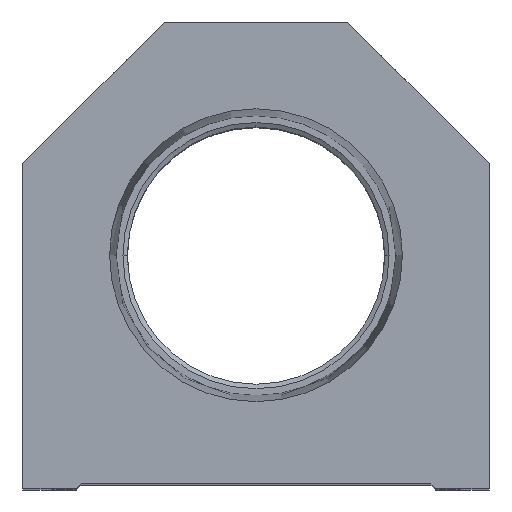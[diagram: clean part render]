
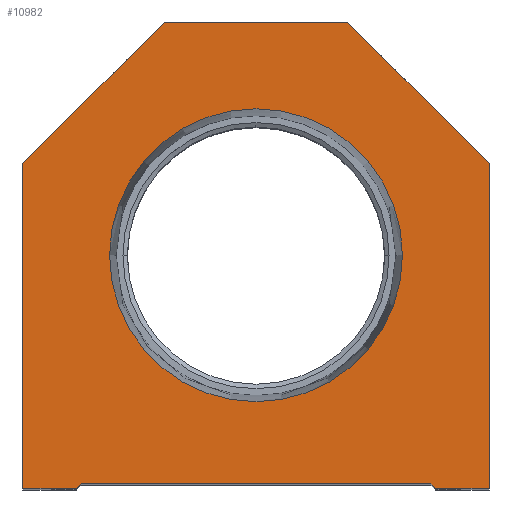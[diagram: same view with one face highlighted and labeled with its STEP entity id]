
A CAD part, top view. The second image highlights one B-rep face of the part: STEP entity #10982.
In plain terms, the highlighted planar face has unit normal (0, 0, 1).
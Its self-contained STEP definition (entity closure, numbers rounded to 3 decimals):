
#150 = CARTESIAN_POINT ( 'NONE',  ( 10., 50.8, 0. ) ) ;
#306 = ORIENTED_EDGE ( 'NONE', *, *, #5388, .T. ) ;
#491 = FACE_OUTER_BOUND ( 'NONE', #12122, .T. ) ;
#863 = EDGE_CURVE ( 'NONE', #15999, #13989, #4480, .T. ) ;
#1043 = ORIENTED_EDGE ( 'NONE', *, *, #13807, .T. ) ;
#1065 = EDGE_CURVE ( 'NONE', #4474, #13667, #1699, .T. ) ;
#1090 = ORIENTED_EDGE ( 'NONE', *, *, #13294, .F. ) ;
#1550 = LINE ( 'NONE', #5254, #8400 ) ;
#1660 = VERTEX_POINT ( 'NONE', #13627 ) ;
#1670 = AXIS2_PLACEMENT_3D ( 'NONE', #15817, #14728, #13236 ) ;
#1684 = LINE ( 'NONE', #7757, #13347 ) ;
#1699 = LINE ( 'NONE', #8202, #5409 ) ;
#2036 = VECTOR ( 'NONE', #13817, 1000. ) ;
#2078 = EDGE_CURVE ( 'NONE', #9143, #9893, #6070, .T. ) ;
#2147 = EDGE_CURVE ( 'NONE', #2598, #2296, #10248, .T. ) ;
#2296 = VERTEX_POINT ( 'NONE', #8568 ) ;
#2369 = ORIENTED_EDGE ( 'NONE', *, *, #2965, .T. ) ;
#2480 = ORIENTED_EDGE ( 'NONE', *, *, #8886, .T. ) ;
#2598 = VERTEX_POINT ( 'NONE', #8726 ) ;
#2639 = ORIENTED_EDGE ( 'NONE', *, *, #2147, .T. ) ;
#2965 = EDGE_CURVE ( 'NONE', #10122, #12591, #9958, .T. ) ;
#3007 = FACE_BOUND ( 'NONE', #9052, .T. ) ;
#4260 = LINE ( 'NONE', #11697, #10611 ) ;
#4261 = PLANE ( 'NONE',  #1670 ) ;
#4474 = VERTEX_POINT ( 'NONE', #8248 ) ;
#4480 = CIRCLE ( 'NONE', #13911, 15.947 ) ;
#4826 = DIRECTION ( 'NONE',  ( 1., 0., 0. ) ) ;
#5119 = LINE ( 'NONE', #10349, #5197 ) ;
#5197 = VECTOR ( 'NONE', #10185, 1000. ) ;
#5254 = CARTESIAN_POINT ( 'NONE',  ( -19.05, 0., 0. ) ) ;
#5307 = ORIENTED_EDGE ( 'NONE', *, *, #2078, .T. ) ;
#5354 = CARTESIAN_POINT ( 'NONE',  ( -15.947, 25.4, 0. ) ) ;
#5388 = EDGE_CURVE ( 'NONE', #11043, #9143, #9402, .T. ) ;
#5409 = VECTOR ( 'NONE', #13599, 1000. ) ;
#5564 = DIRECTION ( 'NONE',  ( -1., 0., 0. ) ) ;
#5931 = VECTOR ( 'NONE', #12969, 1000. ) ;
#6070 = LINE ( 'NONE', #16329, #2036 ) ;
#6516 = VECTOR ( 'NONE', #12004, 1000. ) ;
#6942 = CARTESIAN_POINT ( 'NONE',  ( 0., 25.4, 0. ) ) ;
#7403 = CARTESIAN_POINT ( 'NONE',  ( 25.4, 35.4, 0. ) ) ;
#7757 = CARTESIAN_POINT ( 'NONE',  ( 19.05, 0., 0. ) ) ;
#8202 = CARTESIAN_POINT ( 'NONE',  ( 9.775, 9.775, 0. ) ) ;
#8248 = CARTESIAN_POINT ( 'NONE',  ( 19.05, 0.5, 0. ) ) ;
#8400 = VECTOR ( 'NONE', #10382, 1000. ) ;
#8406 = CARTESIAN_POINT ( 'NONE',  ( -10., 50.8, 0. ) ) ;
#8568 = CARTESIAN_POINT ( 'NONE',  ( -19.05, 0.5, 0. ) ) ;
#8608 = CARTESIAN_POINT ( 'NONE',  ( 19.55, 0., 0. ) ) ;
#8726 = CARTESIAN_POINT ( 'NONE',  ( -19.55, 0., 0. ) ) ;
#8799 = CARTESIAN_POINT ( 'NONE',  ( 0., 25.4, 0. ) ) ;
#8886 = EDGE_CURVE ( 'NONE', #2296, #4474, #10650, .T. ) ;
#8956 = CARTESIAN_POINT ( 'NONE',  ( -25.4, 35.4, 0. ) ) ;
#9052 = EDGE_LOOP ( 'NONE', ( #12879, #1090 ) ) ;
#9115 = DIRECTION ( 'NONE',  ( 1., 0., 0. ) ) ;
#9143 = VERTEX_POINT ( 'NONE', #7403 ) ;
#9402 = LINE ( 'NONE', #10579, #5931 ) ;
#9701 = ORIENTED_EDGE ( 'NONE', *, *, #16252, .T. ) ;
#9893 = VERTEX_POINT ( 'NONE', #150 ) ;
#9958 = LINE ( 'NONE', #8956, #12671 ) ;
#10122 = VERTEX_POINT ( 'NONE', #8406 ) ;
#10185 = DIRECTION ( 'NONE',  ( 0., -1., 0. ) ) ;
#10248 = LINE ( 'NONE', #12903, #16029 ) ;
#10349 = CARTESIAN_POINT ( 'NONE',  ( -25.4, 0., 0. ) ) ;
#10382 = DIRECTION ( 'NONE',  ( 1., 0., 0. ) ) ;
#10505 = DIRECTION ( 'NONE',  ( 0.707, 0.707, 0. ) ) ;
#10579 = CARTESIAN_POINT ( 'NONE',  ( 25.4, 0., 0. ) ) ;
#10611 = VECTOR ( 'NONE', #5564, 1000. ) ;
#10650 = LINE ( 'NONE', #14512, #6516 ) ;
#10785 = CARTESIAN_POINT ( 'NONE',  ( 15.947, 25.4, 0. ) ) ;
#10938 = CARTESIAN_POINT ( 'NONE',  ( -25.4, 35.4, 0. ) ) ;
#10982 = ADVANCED_FACE ( 'NONE', ( #3007, #491 ), #4261, .T. ) ;
#11043 = VERTEX_POINT ( 'NONE', #13150 ) ;
#11223 = EDGE_CURVE ( 'NONE', #1660, #2598, #1550, .T. ) ;
#11236 = DIRECTION ( 'NONE',  ( -0.707, -0.707, 0. ) ) ;
#11697 = CARTESIAN_POINT ( 'NONE',  ( 10., 50.8, 0. ) ) ;
#12004 = DIRECTION ( 'NONE',  ( 1., 0., 0. ) ) ;
#12122 = EDGE_LOOP ( 'NONE', ( #16682, #2639, #2480, #14731, #1043, #306, #5307, #9701, #2369, #15205 ) ) ;
#12591 = VERTEX_POINT ( 'NONE', #10938 ) ;
#12671 = VECTOR ( 'NONE', #11236, 1000. ) ;
#12879 = ORIENTED_EDGE ( 'NONE', *, *, #863, .F. ) ;
#12903 = CARTESIAN_POINT ( 'NONE',  ( -9.775, 9.775, 0. ) ) ;
#12969 = DIRECTION ( 'NONE',  ( 0., 1., 0. ) ) ;
#13150 = CARTESIAN_POINT ( 'NONE',  ( 25.4, 0., 0. ) ) ;
#13236 = DIRECTION ( 'NONE',  ( 1., 0., 0. ) ) ;
#13294 = EDGE_CURVE ( 'NONE', #13989, #15999, #15697, .T. ) ;
#13347 = VECTOR ( 'NONE', #9115, 1000. ) ;
#13599 = DIRECTION ( 'NONE',  ( 0.707, -0.707, 0. ) ) ;
#13627 = CARTESIAN_POINT ( 'NONE',  ( -25.4, 0., 0. ) ) ;
#13667 = VERTEX_POINT ( 'NONE', #8608 ) ;
#13807 = EDGE_CURVE ( 'NONE', #13667, #11043, #1684, .T. ) ;
#13817 = DIRECTION ( 'NONE',  ( -0.707, 0.707, 0. ) ) ;
#13911 = AXIS2_PLACEMENT_3D ( 'NONE', #8799, #13938, #4826 ) ;
#13938 = DIRECTION ( 'NONE',  ( 0., 0., 1. ) ) ;
#13989 = VERTEX_POINT ( 'NONE', #5354 ) ;
#14266 = DIRECTION ( 'NONE',  ( 0., 0., 1. ) ) ;
#14512 = CARTESIAN_POINT ( 'NONE',  ( -19.05, 0.5, 0. ) ) ;
#14728 = DIRECTION ( 'NONE',  ( 0., 0., 1. ) ) ;
#14731 = ORIENTED_EDGE ( 'NONE', *, *, #1065, .T. ) ;
#15205 = ORIENTED_EDGE ( 'NONE', *, *, #15338, .T. ) ;
#15338 = EDGE_CURVE ( 'NONE', #12591, #1660, #5119, .T. ) ;
#15697 = CIRCLE ( 'NONE', #15979, 15.947 ) ;
#15817 = CARTESIAN_POINT ( 'NONE',  ( 0., 0., 0. ) ) ;
#15939 = DIRECTION ( 'NONE',  ( 1., 0., 0. ) ) ;
#15979 = AXIS2_PLACEMENT_3D ( 'NONE', #6942, #14266, #15939 ) ;
#15999 = VERTEX_POINT ( 'NONE', #10785 ) ;
#16029 = VECTOR ( 'NONE', #10505, 1000. ) ;
#16252 = EDGE_CURVE ( 'NONE', #9893, #10122, #4260, .T. ) ;
#16329 = CARTESIAN_POINT ( 'NONE',  ( 25.4, 35.4, 0. ) ) ;
#16682 = ORIENTED_EDGE ( 'NONE', *, *, #11223, .T. ) ;
